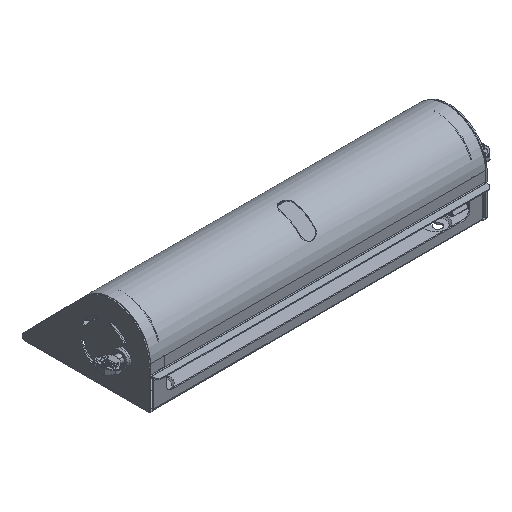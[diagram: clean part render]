
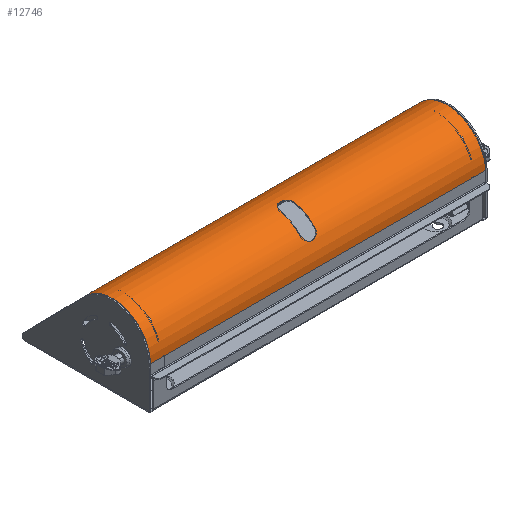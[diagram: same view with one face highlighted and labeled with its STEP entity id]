
A CAD part, isometric view. The second image highlights one B-rep face of the part: STEP entity #12746.
In plain terms, the highlighted cylindrical face has radius 66 mm (diameter 132 mm), a partial arc.
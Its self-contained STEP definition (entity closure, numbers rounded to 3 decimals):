
#11295=CARTESIAN_POINT('',(44.892,-48.381,-12.5));
#11296=VERTEX_POINT('',#11295);
#11305=CARTESIAN_POINT('',(64.584,-13.597,-12.5));
#11306=VERTEX_POINT('',#11305);
#11307=CARTESIAN_POINT('',(0.,0.0,-12.5));
#11308=DIRECTION('',(0.0,0.0,-1.0));
#11309=DIRECTION('',(0.0,-1.0,0.0));
#11310=AXIS2_PLACEMENT_3D('',#11307,#11308,#11309);
#11311=CIRCLE('',#11310,66.);
#11312=EDGE_CURVE('',#11306,#11296,#11311,.T.);
#11339=CARTESIAN_POINT('',(64.584,-13.597,12.5));
#11340=VERTEX_POINT('',#11339);
#11347=CARTESIAN_POINT('',(44.892,-48.381,12.5));
#11348=VERTEX_POINT('',#11347);
#11349=CARTESIAN_POINT('',(0.,0.0,12.5));
#11350=DIRECTION('',(0.0,0.0,1.0));
#11351=DIRECTION('',(0.0,-1.0,0.0));
#11352=AXIS2_PLACEMENT_3D('',#11349,#11350,#11351);
#11353=CIRCLE('',#11352,66.);
#11354=EDGE_CURVE('',#11348,#11340,#11353,.T.);
#11430=CARTESIAN_POINT('',(44.892,-48.381,-12.5));
#11431=CARTESIAN_POINT('',(43.5,-49.672,-12.5));
#11432=CARTESIAN_POINT('',(40.6,-52.125,-11.646));
#11433=CARTESIAN_POINT('',(36.875,-54.776,-8.061));
#11434=CARTESIAN_POINT('',(34.732,-56.124,-2.877));
#11435=CARTESIAN_POINT('',(34.729,-56.124,2.877));
#11436=CARTESIAN_POINT('',(36.878,-54.775,8.059));
#11437=CARTESIAN_POINT('',(40.598,-52.126,11.648));
#11438=CARTESIAN_POINT('',(43.5,-49.672,12.5));
#11439=CARTESIAN_POINT('',(44.892,-48.381,12.5));
#11440=B_SPLINE_CURVE_WITH_KNOTS('',3,(#11430,#11431,#11432,#11433,#11434,#11435,#11436,#11437,#11438,#11439),.UNSPECIFIED.,.F.,.U.,(4,1,1,1,1,1,1,4),(-0.75,-0.679,-0.607,-0.536,-0.464,-0.393,-0.321,-0.25),.UNSPECIFIED.);
#11441=EDGE_CURVE('',#11296,#11348,#11440,.T.);
#11476=CARTESIAN_POINT('',(65.992,-1.004,0.));
#11477=VERTEX_POINT('',#11476);
#11478=CARTESIAN_POINT('',(65.992,-1.004,0.));
#11479=CARTESIAN_POINT('',(65.992,-1.004,-1.87));
#11480=CARTESIAN_POINT('',(65.989,-1.658,-4.671));
#11481=CARTESIAN_POINT('',(65.884,-4.196,-8.656));
#11482=CARTESIAN_POINT('',(65.585,-7.988,-11.646));
#11483=CARTESIAN_POINT('',(64.975,-11.739,-12.5));
#11484=CARTESIAN_POINT('',(64.584,-13.597,-12.5));
#11485=B_SPLINE_CURVE_WITH_KNOTS('',3,(#11478,#11479,#11480,#11481,#11482,#11483,#11484),.UNSPECIFIED.,.F.,.U.,(4,1,1,1,4),(-1.0,-0.929,-0.893,-0.821,-0.75),.UNSPECIFIED.);
#11486=EDGE_CURVE('',#11477,#11306,#11485,.T.);
#11550=CARTESIAN_POINT('',(64.584,-13.597,12.5));
#11551=CARTESIAN_POINT('',(64.975,-11.739,12.5));
#11552=CARTESIAN_POINT('',(65.432,-8.93,11.857));
#11553=CARTESIAN_POINT('',(65.848,-4.904,9.355));
#11554=CARTESIAN_POINT('',(65.989,-1.871,5.609));
#11555=CARTESIAN_POINT('',(65.992,-1.004,1.87));
#11556=CARTESIAN_POINT('',(65.992,-1.004,0.));
#11557=B_SPLINE_CURVE_WITH_KNOTS('',3,(#11550,#11551,#11552,#11553,#11554,#11555,#11556),.UNSPECIFIED.,.F.,.U.,(4,1,1,1,4),(-0.25,-0.179,-0.143,-0.071,0.0),.UNSPECIFIED.);
#11558=EDGE_CURVE('',#11340,#11477,#11557,.T.);
#11816=CARTESIAN_POINT('',(48.815,-44.419,271.55));
#11817=VERTEX_POINT('',#11816);
#11834=CARTESIAN_POINT('',(48.815,-44.419,269.95));
#11835=VERTEX_POINT('',#11834);
#11842=CARTESIAN_POINT('',(48.815,-44.419,271.55));
#11843=DIRECTION('',(0.0,0.0,-1.0));
#11844=VECTOR('',#11843,1.6);
#11845=LINE('',#11842,#11844);
#11846=EDGE_CURVE('',#11817,#11835,#11845,.T.);
#11856=CARTESIAN_POINT('',(44.439,-48.798,271.55));
#11857=VERTEX_POINT('',#11856);
#11874=CARTESIAN_POINT('',(0.,0.0,271.55));
#11875=DIRECTION('',(0.,0.0,1.0));
#11876=DIRECTION('',(0.0,-1.0,0.0));
#11877=AXIS2_PLACEMENT_3D('',#11874,#11875,#11876);
#11878=CIRCLE('',#11877,66.);
#11879=EDGE_CURVE('',#11857,#11817,#11878,.T.);
#11889=CARTESIAN_POINT('',(44.439,-48.798,269.95));
#11890=VERTEX_POINT('',#11889);
#11906=CARTESIAN_POINT('',(44.439,-48.798,269.95));
#11907=DIRECTION('',(0.0,0.0,1.0));
#11908=VECTOR('',#11907,1.6);
#11909=LINE('',#11906,#11908);
#11910=EDGE_CURVE('',#11890,#11857,#11909,.T.);
#11929=CARTESIAN_POINT('',(0.,0.0,269.95));
#11930=DIRECTION('',(0.,0.0,-1.0));
#11931=DIRECTION('',(0.0,-1.0,0.0));
#11932=AXIS2_PLACEMENT_3D('',#11929,#11930,#11931);
#11933=CIRCLE('',#11932,66.);
#11934=EDGE_CURVE('',#11835,#11890,#11933,.T.);
#12192=CARTESIAN_POINT('',(48.815,-44.419,-271.55));
#12193=VERTEX_POINT('',#12192);
#12202=CARTESIAN_POINT('',(48.815,-44.419,-269.95));
#12203=VERTEX_POINT('',#12202);
#12204=CARTESIAN_POINT('',(48.815,-44.419,-269.95));
#12205=DIRECTION('',(0.0,0.0,-1.0));
#12206=VECTOR('',#12205,1.6);
#12207=LINE('',#12204,#12206);
#12208=EDGE_CURVE('',#12203,#12193,#12207,.T.);
#12232=CARTESIAN_POINT('',(44.439,-48.798,-271.55));
#12233=VERTEX_POINT('',#12232);
#12242=CARTESIAN_POINT('',(0.,0.0,-271.55));
#12243=DIRECTION('',(0.,0.0,-1.0));
#12244=DIRECTION('',(0.0,-1.0,0.0));
#12245=AXIS2_PLACEMENT_3D('',#12242,#12243,#12244);
#12246=CIRCLE('',#12245,66.);
#12247=EDGE_CURVE('',#12193,#12233,#12246,.T.);
#12265=CARTESIAN_POINT('',(44.439,-48.798,-269.95));
#12266=VERTEX_POINT('',#12265);
#12275=CARTESIAN_POINT('',(44.439,-48.798,-271.55));
#12276=DIRECTION('',(0.0,0.0,1.0));
#12277=VECTOR('',#12276,1.6);
#12278=LINE('',#12275,#12277);
#12279=EDGE_CURVE('',#12233,#12266,#12278,.T.);
#12297=CARTESIAN_POINT('',(0.,0.0,-269.95));
#12298=DIRECTION('',(0.,0.0,1.0));
#12299=DIRECTION('',(0.0,-1.0,0.0));
#12300=AXIS2_PLACEMENT_3D('',#12297,#12298,#12299);
#12301=CIRCLE('',#12300,66.);
#12302=EDGE_CURVE('',#12266,#12203,#12301,.T.);
#12652=CARTESIAN_POINT('',(46.669,46.669,-290.0));
#12653=VERTEX_POINT('',#12652);
#12688=CARTESIAN_POINT('',(0.,0.0,0.0));
#12689=DIRECTION('',(0.0,0.0,1.0));
#12690=DIRECTION('',(0.0,-1.0,0.0));
#12691=AXIS2_PLACEMENT_3D('',#12688,#12689,#12690);
#12692=CYLINDRICAL_SURFACE('',#12691,66.);
#12693=CARTESIAN_POINT('',(46.669,46.669,290.0));
#12694=VERTEX_POINT('',#12693);
#12695=CARTESIAN_POINT('',(46.669,46.669,290.0));
#12696=DIRECTION('',(0.0,0.0,-1.0));
#12697=VECTOR('',#12696,580.0);
#12698=LINE('',#12695,#12697);
#12699=EDGE_CURVE('',#12694,#12653,#12698,.T.);
#12700=ORIENTED_EDGE('',*,*,#12699,.F.);
#12701=CARTESIAN_POINT('',(0.,-66.0,290.0));
#12702=VERTEX_POINT('',#12701);
#12703=CARTESIAN_POINT('',(0.,0.0,290.0));
#12704=DIRECTION('',(0.0,0.0,1.0));
#12705=DIRECTION('',(0.0,-1.0,0.0));
#12706=AXIS2_PLACEMENT_3D('',#12703,#12704,#12705);
#12707=CIRCLE('',#12706,66.0);
#12708=EDGE_CURVE('',#12702,#12694,#12707,.T.);
#12709=ORIENTED_EDGE('',*,*,#12708,.F.);
#12710=CARTESIAN_POINT('',(0.,-66.0,-290.0));
#12711=VERTEX_POINT('',#12710);
#12712=CARTESIAN_POINT('',(0.,-66.,290.0));
#12713=DIRECTION('',(0.0,0.0,-1.0));
#12714=VECTOR('',#12713,580.0);
#12715=LINE('',#12712,#12714);
#12716=EDGE_CURVE('',#12702,#12711,#12715,.T.);
#12717=ORIENTED_EDGE('',*,*,#12716,.T.);
#12718=CARTESIAN_POINT('',(0.,0.0,-290.0));
#12719=DIRECTION('',(0.0,0.0,1.0));
#12720=DIRECTION('',(0.0,-1.0,0.0));
#12721=AXIS2_PLACEMENT_3D('',#12718,#12719,#12720);
#12722=CIRCLE('',#12721,66.0);
#12723=EDGE_CURVE('',#12711,#12653,#12722,.T.);
#12724=ORIENTED_EDGE('',*,*,#12723,.T.);
#12725=EDGE_LOOP('',(#12700,#12709,#12717,#12724));
#12726=FACE_OUTER_BOUND('',#12725,.T.);
#12727=ORIENTED_EDGE('',*,*,#11354,.T.);
#12728=ORIENTED_EDGE('',*,*,#11558,.T.);
#12729=ORIENTED_EDGE('',*,*,#11486,.T.);
#12730=ORIENTED_EDGE('',*,*,#11312,.T.);
#12731=ORIENTED_EDGE('',*,*,#11441,.T.);
#12732=EDGE_LOOP('',(#12727,#12728,#12729,#12730,#12731));
#12733=FACE_BOUND('',#12732,.T.);
#12734=ORIENTED_EDGE('',*,*,#11846,.T.);
#12735=ORIENTED_EDGE('',*,*,#11934,.T.);
#12736=ORIENTED_EDGE('',*,*,#11910,.T.);
#12737=ORIENTED_EDGE('',*,*,#11879,.T.);
#12738=EDGE_LOOP('',(#12734,#12735,#12736,#12737));
#12739=FACE_BOUND('',#12738,.T.);
#12740=ORIENTED_EDGE('',*,*,#12208,.T.);
#12741=ORIENTED_EDGE('',*,*,#12247,.T.);
#12742=ORIENTED_EDGE('',*,*,#12279,.T.);
#12743=ORIENTED_EDGE('',*,*,#12302,.T.);
#12744=EDGE_LOOP('',(#12740,#12741,#12742,#12743));
#12745=FACE_BOUND('',#12744,.T.);
#12746=ADVANCED_FACE('',(#12726,#12733,#12739,#12745),#12692,.T.);
